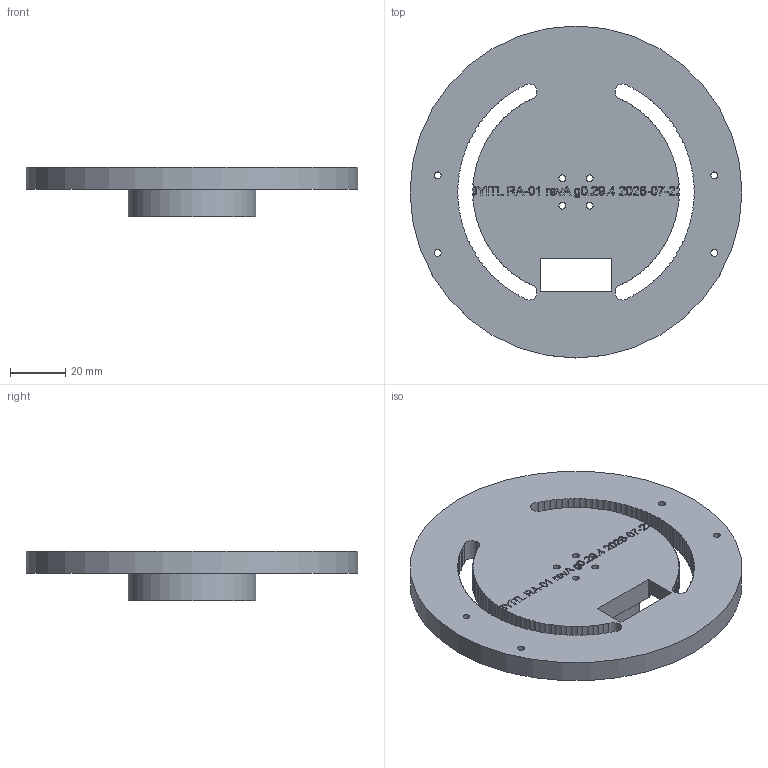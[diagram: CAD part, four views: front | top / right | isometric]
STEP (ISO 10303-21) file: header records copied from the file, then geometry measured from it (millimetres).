
FILE_DESCRIPTION(('Open CASCADE Model'),'2;1');
FILE_NAME('Open CASCADE Shape Model','2026-07-23T16:04:19',('Author'),( 'Open CASCADE'),'Open CASCADE STEP processor 7.9','build123d', 'Unknown');
FILE_SCHEMA(('AUTOMOTIVE_DESIGN { 1 0 10303 214 1 1 1 1 }'));
Length unit declared in the file: millimetre
Products named in the file (1): COMPOUND
Bounding box: 120 x 120 x 18 mm (x, y, z)
Volume: 93509.5 mm3; surface area: 29761.5 mm2
Topology: 1 solids, 1 shells, 719 faces, 2025 edges, 1350 vertices
Faces by surface type: extrusion 325, plane 206, cylinder 188
Full cylindrical faces by diameter (mm): 2.5 x8, 46 x1, 120 x1
Entity records: 55594 total; most frequent: CARTESIAN_POINT 18938, DIRECTION 5237, ORIENTED_EDGE 4050, PCURVE 4050, DEFINITIONAL_REPRESENTATION 4050, VECTOR 3286, LINE 2961, B_SPLINE_CURVE_WITH_KNOTS 2663
